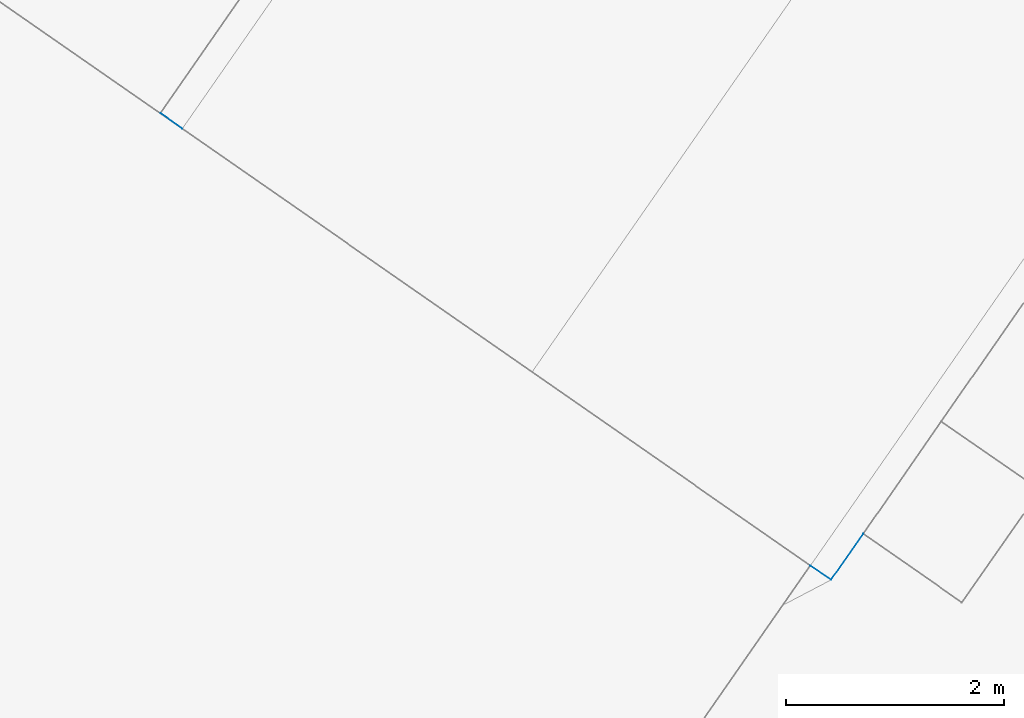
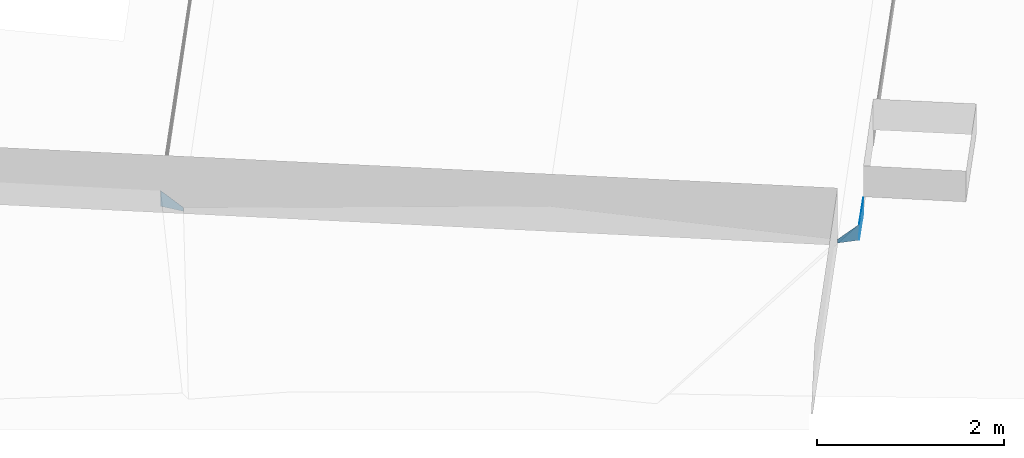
# Not in any storey, part 112 of 136: 3 walls.
"""IFC4 building model written with IfcOpenShell, lengths in metres."""

from ifc_helpers import new_model, entity, si_unit, converted_unit, origin, place, context, subcontext, project, spatial, face_set, surface_model, element, save


model = new_model("IFC4")

# Units and contexts
model_context = context("Model", 3, precision=1e-05, world=origin())
body_context = subcontext(model_context, "Body", "Model", "MODEL_VIEW")
ifc_project = project(units=[converted_unit("PLANEANGLEUNIT", "DEGREE", entity("IfcRatioMeasure", 0.0174532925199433), si_unit("PLANEANGLEUNIT", "RADIAN"), dimensions=[0, 0, 0, 0, 0, 0, 0]), si_unit("AREAUNIT", "SQUARE_METRE"), si_unit("LENGTHUNIT", "METRE")], contexts=[model_context])

# Site, building
site_placement = place(None, origin())
site = spatial("IfcSite", under=ifc_project, at=site_placement, Name="_site")
building_placement = place(site_placement, origin())
building = spatial("IfcBuilding", under=site, at=building_placement, Name="_building")

# Walls
wall_1_placement = place(building_placement, origin())
element("IfcWall", 1, at=wall_1_placement, inside=building, Name="Wall", PredefinedType="NOTDEFINED", context=body_context, shape_type="SurfaceModel", body=[
    surface_model("IfcFaceBasedSurfaceModel", [(-11.83, 145.73, 50.676), (-11.533, 146.152, 50.676), (-11.533, 146.152, 50.47), (-11.83, 145.73, 50.47)], [face_set([[[0, 1, 2, 3]]])]),
])
wall_2_placement = place(building_placement, origin())
element("IfcWall", 2, at=wall_2_placement, inside=building, Name="Wall", PredefinedType="NOTDEFINED", context=body_context, shape_type="SurfaceModel", body=[
    surface_model("IfcFaceBasedSurfaceModel", [(-12.02, 145.86, 50.47), (-11.83, 145.73, 50.676), (-11.83, 145.73, 50.47), (-12.02, 145.86, 50.42)], [face_set([[[0, 1, 2, 3]]])]),
])
wall_3_placement = place(building_placement, origin())
element("IfcWall", 3, at=wall_3_placement, inside=building, Name="Wall", PredefinedType="NOTDEFINED", context=body_context, shape_type="SurfaceModel", body=[
    surface_model("IfcFaceBasedSurfaceModel", [(-17.98, 150.01, 50.676), (-17.78, 149.87, 50.47), (-17.78, 149.87, 50.42), (-17.98, 150.01, 50.47)], [face_set([[[0, 1, 2, 3]]])]),
])

save(model, "model.ifc")
